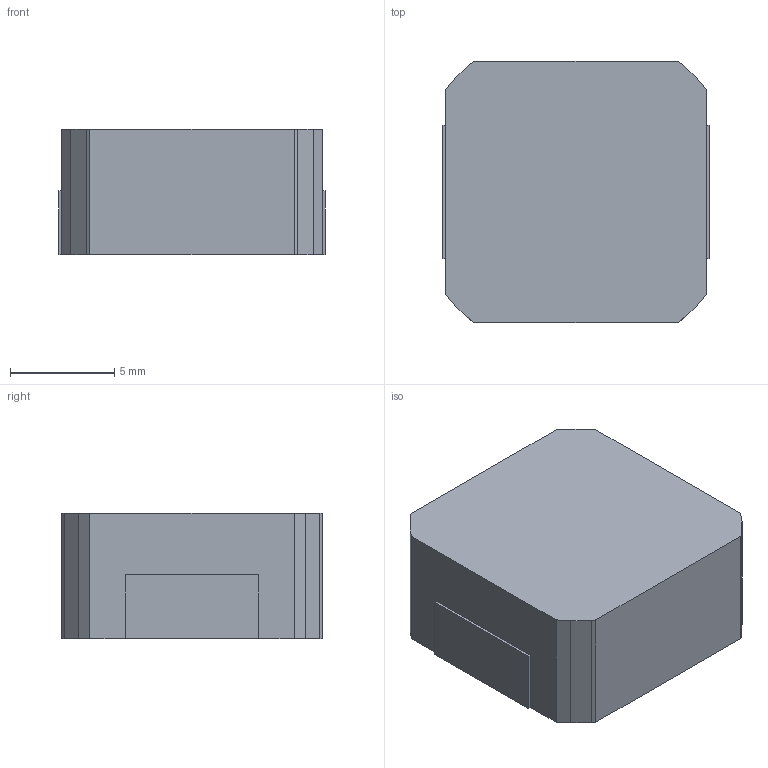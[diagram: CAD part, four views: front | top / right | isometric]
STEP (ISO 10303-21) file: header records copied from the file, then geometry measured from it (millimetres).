
FILE_DESCRIPTION(('FreeCAD Model'),'2;1');
FILE_NAME('Open CASCADE Shape Model','2021-06-28T20:19:00',('Author'),( ''),'Open CASCADE STEP processor 7.5','FreeCAD','Unknown');
FILE_SCHEMA(('AUTOMOTIVE_DESIGN { 1 0 10303 214 1 1 1 1 }'));
Length unit declared in the file: millimetre
Products named in the file (4): RLC; intersection; cube001; cube002
Assembly tree (3 placements, depth 2):
  RLC
    intersection
    cube001
    cube002
Bounding box: 12.75 x 12.5 x 6 mm (x, y, z)
Volume: 959.9 mm3; surface area: 703.8 mm2
Topology: 3 solids, 3 shells, 42 faces, 104 edges, 68 vertices
Faces by surface type: plane 32, bspline 10
Entity records: 2724 total; most frequent: CARTESIAN_POINT 608, DIRECTION 234, ORIENTED_EDGE 208, PCURVE 208, DEFINITIONAL_REPRESENTATION 208, LINE 162, VECTOR 162, B_SPLINE_CURVE_WITH_KNOTS 150
